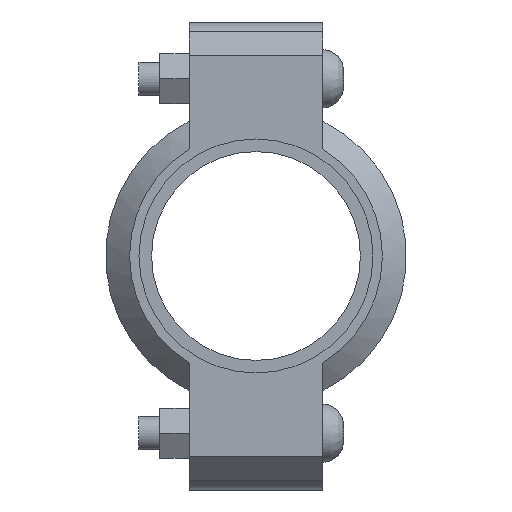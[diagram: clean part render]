
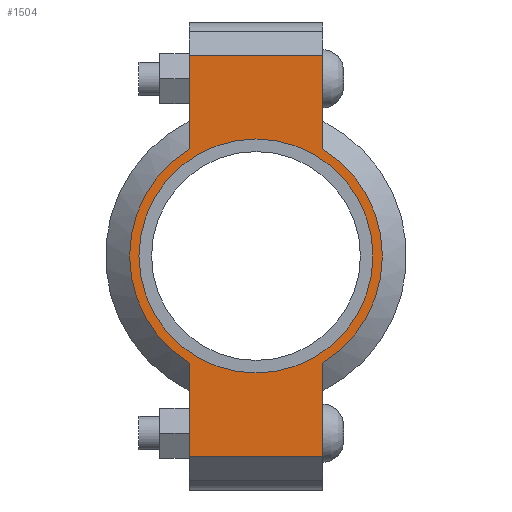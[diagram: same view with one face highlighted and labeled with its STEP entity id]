
A CAD part, left-side view. The second image highlights one B-rep face of the part: STEP entity #1504.
In plain terms, the highlighted planar face has unit normal (-1, 0, 0) as drawn and (0, 0, 1) by its records, which use the part's own axes.
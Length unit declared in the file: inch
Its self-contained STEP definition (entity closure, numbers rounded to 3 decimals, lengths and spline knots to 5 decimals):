
#184=LINE('',#2609,#275);
#192=LINE('',#2645,#283);
#199=LINE('',#2666,#290);
#208=LINE('',#2698,#299);
#209=LINE('',#2702,#300);
#210=LINE('',#2704,#301);
#275=VECTOR('',#2107,0.3937);
#283=VECTOR('',#2123,0.3937);
#290=VECTOR('',#2142,0.3937);
#299=VECTOR('',#2167,0.3937);
#300=VECTOR('',#2172,0.3937);
#301=VECTOR('',#2173,0.3937);
#353=FACE_BOUND('',#513,.T.);
#417=FACE_OUTER_BOUND('',#512,.T.);
#512=EDGE_LOOP('',(#1239,#1240,#1241,#1242,#1243,#1244,#1245,#1246));
#513=EDGE_LOOP('',(#1247));
#610=CIRCLE('',#1765,1.89);
#611=CIRCLE('',#1766,1.89);
#612=CIRCLE('',#1767,1.75);
#715=VERTEX_POINT('',#2606);
#716=VERTEX_POINT('',#2608);
#727=VERTEX_POINT('',#2640);
#728=VERTEX_POINT('',#2644);
#735=VERTEX_POINT('',#2663);
#736=VERTEX_POINT('',#2665);
#746=VERTEX_POINT('',#2701);
#747=VERTEX_POINT('',#2703);
#748=VERTEX_POINT('',#2706);
#879=EDGE_CURVE('',#716,#715,#184,.T.);
#893=EDGE_CURVE('',#728,#727,#192,.T.);
#903=EDGE_CURVE('',#736,#735,#199,.T.);
#918=EDGE_CURVE('',#728,#715,#208,.T.);
#919=EDGE_CURVE('',#727,#736,#610,.T.);
#920=EDGE_CURVE('',#746,#735,#209,.T.);
#921=EDGE_CURVE('',#746,#747,#210,.T.);
#922=EDGE_CURVE('',#747,#716,#611,.T.);
#923=EDGE_CURVE('',#748,#748,#612,.T.);
#1239=ORIENTED_EDGE('',*,*,#918,.F.);
#1240=ORIENTED_EDGE('',*,*,#893,.T.);
#1241=ORIENTED_EDGE('',*,*,#919,.T.);
#1242=ORIENTED_EDGE('',*,*,#903,.T.);
#1243=ORIENTED_EDGE('',*,*,#920,.F.);
#1244=ORIENTED_EDGE('',*,*,#921,.T.);
#1245=ORIENTED_EDGE('',*,*,#922,.T.);
#1246=ORIENTED_EDGE('',*,*,#879,.T.);
#1247=ORIENTED_EDGE('',*,*,#923,.T.);
#1358=PLANE('',#1764);
#1504=ADVANCED_FACE('',(#417,#353),#1358,.T.);
#1764=AXIS2_PLACEMENT_3D('',#2699,#2168,#2169);
#1765=AXIS2_PLACEMENT_3D('',#2700,#2170,#2171);
#1766=AXIS2_PLACEMENT_3D('',#2705,#2174,#2175);
#1767=AXIS2_PLACEMENT_3D('',#2707,#2176,#2177);
#2107=DIRECTION('',(1.,0.,0.));
#2123=DIRECTION('',(-1.,0.,0.));
#2142=DIRECTION('',(-1.,0.,0.));
#2167=DIRECTION('',(0.,-1.,0.));
#2168=DIRECTION('center_axis',(0.,0.,1.));
#2169=DIRECTION('ref_axis',(-1.,0.,0.));
#2170=DIRECTION('center_axis',(0.,0.,1.));
#2171=DIRECTION('ref_axis',(1.,0.,0.));
#2172=DIRECTION('',(0.,1.,0.));
#2173=DIRECTION('',(1.,0.,0.));
#2174=DIRECTION('center_axis',(0.,0.,1.));
#2175=DIRECTION('ref_axis',(1.,0.,0.));
#2176=DIRECTION('center_axis',(0.,0.,-1.));
#2177=DIRECTION('ref_axis',(1.,0.,0.));
#2606=CARTESIAN_POINT('',(3.,-1.,0.94));
#2608=CARTESIAN_POINT('',(1.60378,-1.,0.94));
#2609=CARTESIAN_POINT('',(3.5,-1.,0.94));
#2640=CARTESIAN_POINT('',(1.60378,1.,0.94));
#2644=CARTESIAN_POINT('',(3.,1.,0.94));
#2645=CARTESIAN_POINT('',(-3.5,1.,0.94));
#2663=CARTESIAN_POINT('',(-3.,1.,0.94));
#2665=CARTESIAN_POINT('',(-1.60378,1.,0.94));
#2666=CARTESIAN_POINT('',(-3.5,1.,0.94));
#2698=CARTESIAN_POINT('',(3.,-0.5,0.94));
#2699=CARTESIAN_POINT('Origin',(0.,0.,
0.94));
#2700=CARTESIAN_POINT('Origin',(0.,0.,0.94));
#2701=CARTESIAN_POINT('',(-3.,-1.,0.94));
#2702=CARTESIAN_POINT('',(-3.,0.5,0.94));
#2703=CARTESIAN_POINT('',(-1.60378,-1.,0.94));
#2704=CARTESIAN_POINT('',(3.5,-1.,0.94));
#2705=CARTESIAN_POINT('Origin',(0.,0.,0.94));
#2706=CARTESIAN_POINT('',(-1.75,0.,0.94));
#2707=CARTESIAN_POINT('Origin',(0.,0.,0.94));
